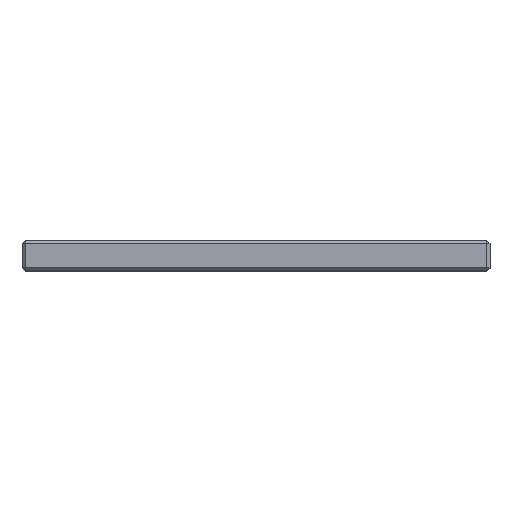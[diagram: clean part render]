
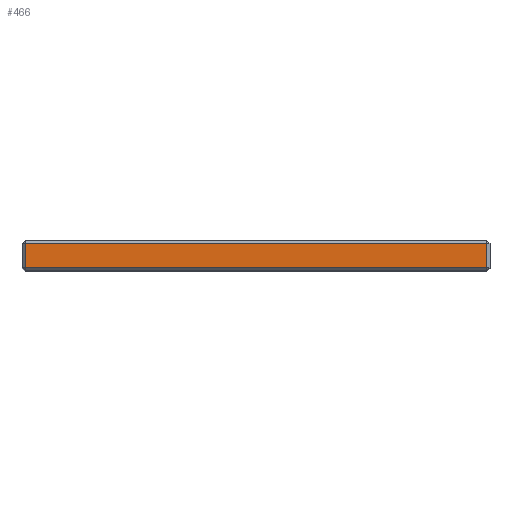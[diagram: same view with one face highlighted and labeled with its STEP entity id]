
A CAD part, top view. The second image highlights one B-rep face of the part: STEP entity #466.
In plain terms, the highlighted planar face has unit normal (0, 0, 1).
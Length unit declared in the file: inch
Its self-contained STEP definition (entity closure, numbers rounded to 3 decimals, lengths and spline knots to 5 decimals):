
#1 = CARTESIAN_POINT ( 'NONE',  ( -3.875, 0.5, 3.875 ) ) ;
#35 = VECTOR ( 'NONE', #1397, 39.37008 ) ;
#161 = CARTESIAN_POINT ( 'NONE',  ( -3.825, 0.05, 3.875 ) ) ;
#234 = CARTESIAN_POINT ( 'NONE',  ( 3.825, 0.05, 3.875 ) ) ;
#246 = ORIENTED_EDGE ( 'NONE', *, *, #1498, .T. ) ;
#319 = VERTEX_POINT ( 'NONE', #1593 ) ;
#326 = LINE ( 'NONE', #909, #1694 ) ;
#374 = DIRECTION ( 'NONE',  ( -1., 0., 0. ) ) ;
#466 = ADVANCED_FACE ( 'NONE', ( #1153 ), #789, .F. ) ;
#507 = DIRECTION ( 'NONE',  ( 0., 0., -1. ) ) ;
#512 = EDGE_LOOP ( 'NONE', ( #1045, #246, #1087, #1572 ) ) ;
#559 = LINE ( 'NONE', #639, #1383 ) ;
#626 = DIRECTION ( 'NONE',  ( 0., 1., 0. ) ) ;
#639 = CARTESIAN_POINT ( 'NONE',  ( -3.875, 0.05, 3.875 ) ) ;
#653 = DIRECTION ( 'NONE',  ( 1., 0., 0. ) ) ;
#712 = VERTEX_POINT ( 'NONE', #161 ) ;
#789 = PLANE ( 'NONE',  #1370 ) ;
#817 = VERTEX_POINT ( 'NONE', #234 ) ;
#824 = CARTESIAN_POINT ( 'NONE',  ( -3.825, 0.5, 3.875 ) ) ;
#909 = CARTESIAN_POINT ( 'NONE',  ( 3.825, 0.5, 3.875 ) ) ;
#934 = EDGE_CURVE ( 'NONE', #319, #1664, #1755, .T. ) ;
#943 = EDGE_CURVE ( 'NONE', #712, #817, #559, .T. ) ;
#952 = CARTESIAN_POINT ( 'NONE',  ( -3.875, 0.45, 3.875 ) ) ;
#1045 = ORIENTED_EDGE ( 'NONE', *, *, #943, .T. ) ;
#1087 = ORIENTED_EDGE ( 'NONE', *, *, #934, .T. ) ;
#1111 = EDGE_CURVE ( 'NONE', #1664, #712, #1547, .T. ) ;
#1153 = FACE_OUTER_BOUND ( 'NONE', #512, .T. ) ;
#1360 = VECTOR ( 'NONE', #374, 39.37008 ) ;
#1370 = AXIS2_PLACEMENT_3D ( 'NONE', #1, #507, #1756 ) ;
#1383 = VECTOR ( 'NONE', #653, 39.37008 ) ;
#1397 = DIRECTION ( 'NONE',  ( 0., -1., 0. ) ) ;
#1489 = CARTESIAN_POINT ( 'NONE',  ( -3.825, 0.45, 3.875 ) ) ;
#1498 = EDGE_CURVE ( 'NONE', #817, #319, #326, .T. ) ;
#1547 = LINE ( 'NONE', #824, #35 ) ;
#1572 = ORIENTED_EDGE ( 'NONE', *, *, #1111, .T. ) ;
#1593 = CARTESIAN_POINT ( 'NONE',  ( 3.825, 0.45, 3.875 ) ) ;
#1664 = VERTEX_POINT ( 'NONE', #1489 ) ;
#1694 = VECTOR ( 'NONE', #626, 39.37008 ) ;
#1755 = LINE ( 'NONE', #952, #1360 ) ;
#1756 = DIRECTION ( 'NONE',  ( -1., 0., 0. ) ) ;
